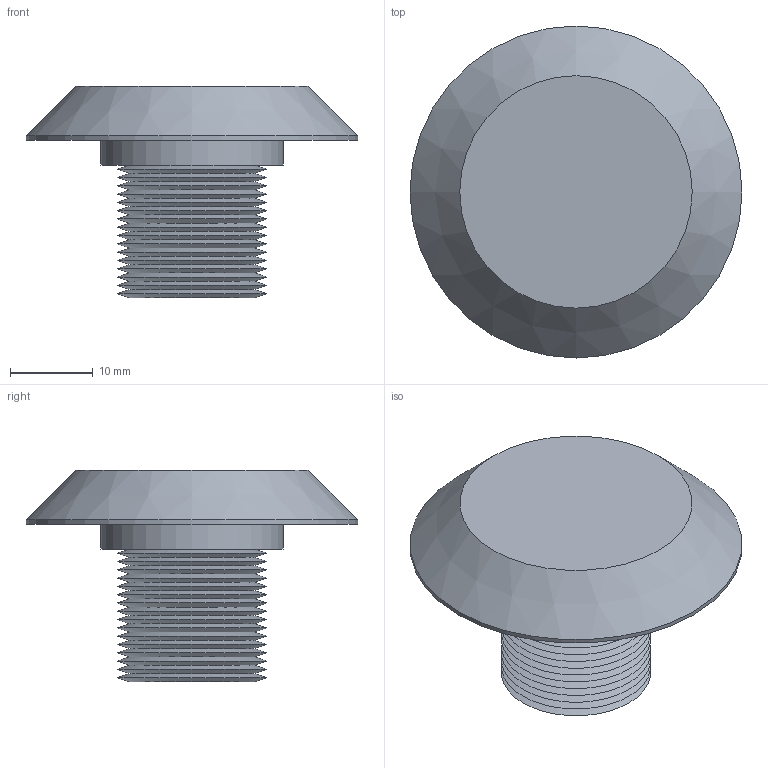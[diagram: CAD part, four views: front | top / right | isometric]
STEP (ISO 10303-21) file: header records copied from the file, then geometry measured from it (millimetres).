
FILE_DESCRIPTION(('FreeCAD Model'),'2;1');
FILE_NAME('Open CASCADE Shape Model','2022-04-26T15:08:19',( 'Thomas Reinhold'),('Eickmann Elektronik GmbH'), 'Open CASCADE STEP processor 7.4','FreeCAD','Unknown');
FILE_SCHEMA(('AUTOMOTIVE_DESIGN { 1 0 10303 214 1 1 1 1 }'));
Length unit declared in the file: millimetre
Products named in the file (3): _2_Mutter; Gewinde_lang; Mutter_Hyg
Assembly tree (2 placements, depth 2):
  _2_Mutter
    Gewinde_lang
    Mutter_Hyg
Bounding box: 40 x 40 x 25.5 mm (x, y, z)
Volume: 10690 mm3; surface area: 6069.3 mm2
Topology: 2 solids, 2 shells, 40 faces, 73 edges, 38 vertices
Faces by surface type: cone 33, plane 5, cylinder 2
Full cylindrical faces by diameter (mm): 22 x1, 40 x1
Entity records: 1974 total; most frequent: DIRECTION 343, CARTESIAN_POINT 300, LINE 175, VECTOR 175, ORIENTED_EDGE 146, PCURVE 146, DEFINITIONAL_REPRESENTATION 146, AXIS2_PLACEMENT_3D 81
